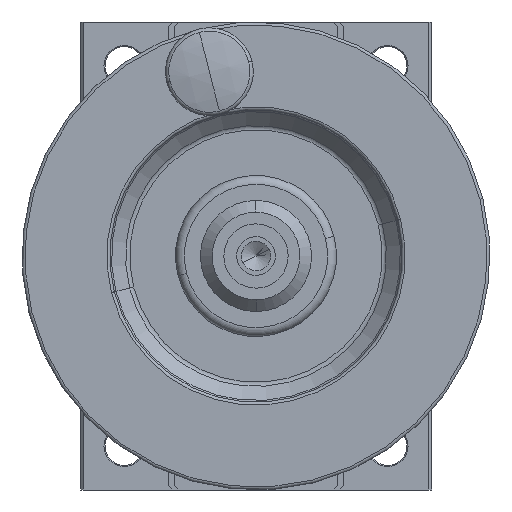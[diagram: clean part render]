
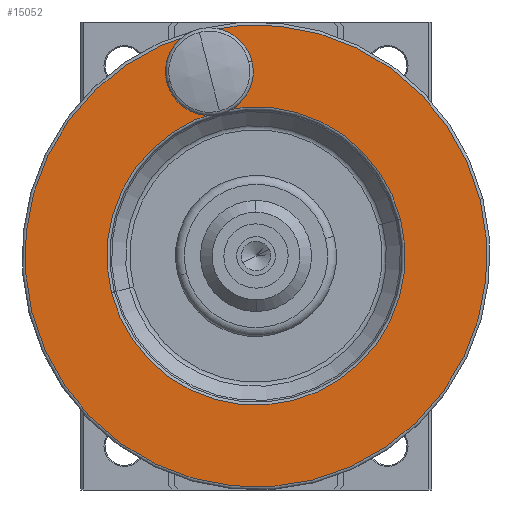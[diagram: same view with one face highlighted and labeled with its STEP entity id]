
A CAD part, left-side view. The second image highlights one B-rep face of the part: STEP entity #15052.
In plain terms, the highlighted planar face has unit normal (-1, 0, 0).
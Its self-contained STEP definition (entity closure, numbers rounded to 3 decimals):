
#486 = EDGE_CURVE ( 'NONE', #15296, #6944, #5034, .T. ) ;
#623 = CARTESIAN_POINT ( 'NONE',  ( -23.5, 14., -40. ) ) ;
#705 = DIRECTION ( 'NONE',  ( -1., 0., 0. ) ) ;
#719 = CARTESIAN_POINT ( 'NONE',  ( -23.5, 19.06, -7.756 ) ) ;
#1084 = DIRECTION ( 'NONE',  ( 0., -0.969, 0.245 ) ) ;
#1117 = DIRECTION ( 'NONE',  ( 0., -0.969, 0.245 ) ) ;
#1147 = CIRCLE ( 'NONE', #14536, 3.001 ) ;
#1593 = CIRCLE ( 'NONE', #10606, 39.5 ) ;
#2000 = CARTESIAN_POINT ( 'NONE',  ( -23.5, 21.969, -8.492 ) ) ;
#2076 = CARTESIAN_POINT ( 'NONE',  ( -23.5, 52.294, -49.685 ) ) ;
#3029 = DIRECTION ( 'NONE',  ( 0., -0.969, 0.245 ) ) ;
#3122 = CARTESIAN_POINT ( 'NONE',  ( -23.5, 4.192, -78.779 ) ) ;
#3206 = AXIS2_PLACEMENT_3D ( 'NONE', #4773, #12117, #1084 ) ;
#3544 = CARTESIAN_POINT ( 'NONE',  ( -23.5, 21.969, -8.492 ) ) ;
#3977 = DIRECTION ( 'NONE',  ( 1., 0., 0. ) ) ;
#3996 = ORIENTED_EDGE ( 'NONE', *, *, #4874, .T. ) ;
#4257 = FACE_OUTER_BOUND ( 'NONE', #6906, .T. ) ;
#4270 = AXIS2_PLACEMENT_3D ( 'NONE', #8809, #3977, #13810 ) ;
#4299 = EDGE_CURVE ( 'NONE', #13824, #11758, #8311, .T. ) ;
#4358 = CARTESIAN_POINT ( 'NONE',  ( -23.5, 38.722, -46.253 ) ) ;
#4509 = EDGE_LOOP ( 'NONE', ( #13454, #7676 ) ) ;
#4773 = CARTESIAN_POINT ( 'NONE',  ( -23.5, 14., -40. ) ) ;
#4826 = DIRECTION ( 'NONE',  ( 0., -0.969, 0.245 ) ) ;
#4874 = EDGE_CURVE ( 'NONE', #11758, #13824, #1147, .T. ) ;
#5034 = CIRCLE ( 'NONE', #4270, 25.5 ) ;
#5299 = PLANE ( 'NONE',  #14688 ) ;
#5368 = FACE_BOUND ( 'NONE', #4509, .T. ) ;
#5710 = CIRCLE ( 'NONE', #7755, 39.5 ) ;
#5862 = VERTEX_POINT ( 'NONE', #7163 ) ;
#6284 = CIRCLE ( 'NONE', #3206, 25.5 ) ;
#6906 = EDGE_LOOP ( 'NONE', ( #13313, #8677 ) ) ;
#6944 = VERTEX_POINT ( 'NONE', #4358 ) ;
#7153 = DIRECTION ( 'NONE',  ( -1., 0., 0. ) ) ;
#7163 = CARTESIAN_POINT ( 'NONE',  ( -23.5, -24.294, -30.315 ) ) ;
#7676 = ORIENTED_EDGE ( 'NONE', *, *, #14502, .T. ) ;
#7755 = AXIS2_PLACEMENT_3D ( 'NONE', #623, #705, #13100 ) ;
#8311 = CIRCLE ( 'NONE', #11933, 3.001 ) ;
#8677 = ORIENTED_EDGE ( 'NONE', *, *, #8708, .T. ) ;
#8708 = EDGE_CURVE ( 'NONE', #11170, #5862, #1593, .T. ) ;
#8809 = CARTESIAN_POINT ( 'NONE',  ( -23.5, 14., -40. ) ) ;
#9047 = EDGE_CURVE ( 'NONE', #5862, #11170, #5710, .T. ) ;
#9078 = DIRECTION ( 'NONE',  ( 1., 0., 0. ) ) ;
#10606 = AXIS2_PLACEMENT_3D ( 'NONE', #10858, #7153, #1117 ) ;
#10858 = CARTESIAN_POINT ( 'NONE',  ( -23.5, 14., -40. ) ) ;
#11086 = ORIENTED_EDGE ( 'NONE', *, *, #4299, .T. ) ;
#11170 = VERTEX_POINT ( 'NONE', #2076 ) ;
#11758 = VERTEX_POINT ( 'NONE', #13066 ) ;
#11794 = EDGE_LOOP ( 'NONE', ( #3996, #11086 ) ) ;
#11933 = AXIS2_PLACEMENT_3D ( 'NONE', #3544, #12025, #4826 ) ;
#12025 = DIRECTION ( 'NONE',  ( 1., 0., 0. ) ) ;
#12117 = DIRECTION ( 'NONE',  ( 1., 0., 0. ) ) ;
#12683 = CARTESIAN_POINT ( 'NONE',  ( -23.5, -10.722, -33.747 ) ) ;
#13066 = CARTESIAN_POINT ( 'NONE',  ( -23.5, 24.878, -9.228 ) ) ;
#13100 = DIRECTION ( 'NONE',  ( 0., -0.969, 0.245 ) ) ;
#13313 = ORIENTED_EDGE ( 'NONE', *, *, #9047, .T. ) ;
#13454 = ORIENTED_EDGE ( 'NONE', *, *, #486, .T. ) ;
#13810 = DIRECTION ( 'NONE',  ( 0., -0.969, 0.245 ) ) ;
#13824 = VERTEX_POINT ( 'NONE', #719 ) ;
#13841 = DIRECTION ( 'NONE',  ( 1., 0., 0. ) ) ;
#14011 = DIRECTION ( 'NONE',  ( 0., -0.969, 0.245 ) ) ;
#14502 = EDGE_CURVE ( 'NONE', #6944, #15296, #6284, .T. ) ;
#14536 = AXIS2_PLACEMENT_3D ( 'NONE', #2000, #9078, #3029 ) ;
#14688 = AXIS2_PLACEMENT_3D ( 'NONE', #3122, #13841, #14011 ) ;
#15052 = ADVANCED_FACE ( 'NONE', ( #15317, #5368, #4257 ), #5299, .F. ) ;
#15296 = VERTEX_POINT ( 'NONE', #12683 ) ;
#15317 = FACE_BOUND ( 'NONE', #11794, .T. ) ;
